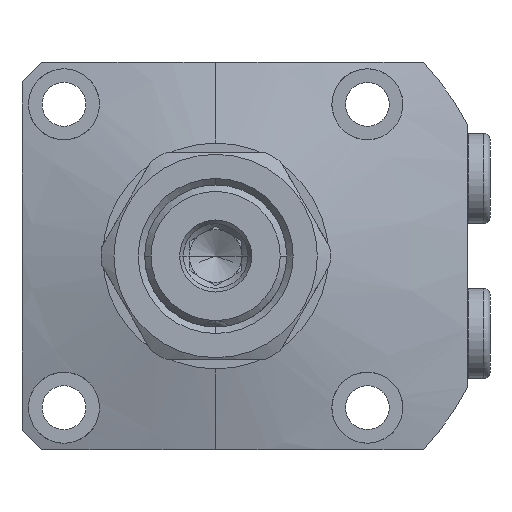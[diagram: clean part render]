
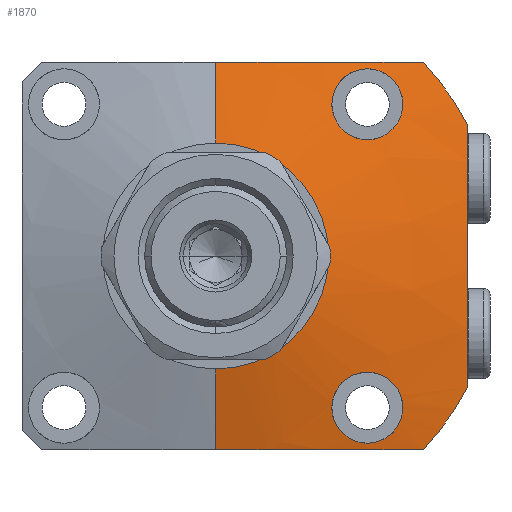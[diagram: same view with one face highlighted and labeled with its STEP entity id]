
A CAD part, left-side view. The second image highlights one B-rep face of the part: STEP entity #1870.
In plain terms, the highlighted conical face has half-angle 75 degrees and reference radius 17.5 mm.
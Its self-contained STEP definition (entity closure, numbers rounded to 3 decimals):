
#852=FACE_BOUND('',#2519,.T.);
#853=FACE_BOUND('',#2520,.T.);
#854=FACE_BOUND('',#2521,.T.);
#1024=CONICAL_SURFACE('',#6011,17.5,75.);
#1387=LINE('',#9183,#1626);
#1388=LINE('',#9212,#1627);
#1626=VECTOR('',#7105,1.);
#1627=VECTOR('',#7106,1.);
#1870=ADVANCED_FACE('',(#852,#853,#854),#1024,.T.);
#2519=EDGE_LOOP('',(#3761,#3762,#3763,#3764,#3765,#3766,#3767,#3768));
#2520=EDGE_LOOP('',(#3769,#3770));
#2521=EDGE_LOOP('',(#3771,#3772));
#2919=CIRCLE('',#5997,44.);
#2924=CIRCLE('',#6008,17.5);
#2925=CIRCLE('',#6010,44.);
#3761=ORIENTED_EDGE('',*,*,#5256,.T.);
#3762=ORIENTED_EDGE('',*,*,#5311,.F.);
#3763=ORIENTED_EDGE('',*,*,#5262,.F.);
#3764=ORIENTED_EDGE('',*,*,#5294,.T.);
#3765=ORIENTED_EDGE('',*,*,#5306,.T.);
#3766=ORIENTED_EDGE('',*,*,#5312,.T.);
#3767=ORIENTED_EDGE('',*,*,#5313,.T.);
#3768=ORIENTED_EDGE('',*,*,#5314,.T.);
#3769=ORIENTED_EDGE('',*,*,#5315,.F.);
#3770=ORIENTED_EDGE('',*,*,#5167,.F.);
#3771=ORIENTED_EDGE('',*,*,#5316,.F.);
#3772=ORIENTED_EDGE('',*,*,#5171,.F.);
#4653=VERTEX_POINT('',#8956);
#4654=VERTEX_POINT('',#8967);
#4657=VERTEX_POINT('',#8974);
#4658=VERTEX_POINT('',#8985);
#4721=VERTEX_POINT('',#9181);
#4722=VERTEX_POINT('',#9182);
#4723=VERTEX_POINT('',#9184);
#4728=VERTEX_POINT('',#9211);
#4757=VERTEX_POINT('',#9280);
#4759=VERTEX_POINT('',#9302);
#4760=VERTEX_POINT('',#9321);
#4761=VERTEX_POINT('',#9323);
#5167=EDGE_CURVE('',#4653,#4654,#5608,.T.);
#5171=EDGE_CURVE('',#4657,#4658,#5609,.T.);
#5256=EDGE_CURVE('',#4723,#4721,#1387,.T.);
#5262=EDGE_CURVE('',#4728,#4722,#1388,.T.);
#5294=EDGE_CURVE('',#4728,#4757,#5618,.T.);
#5306=EDGE_CURVE('',#4757,#4759,#2919,.T.);
#5311=EDGE_CURVE('',#4722,#4721,#2924,.T.);
#5312=EDGE_CURVE('',#4759,#4760,#5619,.T.);
#5313=EDGE_CURVE('',#4760,#4761,#2925,.T.);
#5314=EDGE_CURVE('',#4761,#4723,#5620,.T.);
#5315=EDGE_CURVE('',#4654,#4653,#5621,.T.);
#5316=EDGE_CURVE('',#4658,#4657,#5622,.T.);
#5608=B_SPLINE_CURVE_WITH_KNOTS('',3,(#8957,#8958,#8959,#8960,#8961,#8962,
#8963,#8964,#8965,#8966),.UNSPECIFIED.,.F.,.F.,(4,2,2,2,4),(0.,0.25,0.5,
0.75,1.),.UNSPECIFIED.);
#5609=B_SPLINE_CURVE_WITH_KNOTS('',3,(#8975,#8976,#8977,#8978,#8979,#8980,
#8981,#8982,#8983,#8984),.UNSPECIFIED.,.F.,.F.,(4,2,2,2,4),(0.,0.25,0.5,
0.75,1.),.UNSPECIFIED.);
#5618=B_SPLINE_CURVE_WITH_KNOTS('',3,(#9281,#9282,#9283,#9284),
 .UNSPECIFIED.,.F.,.F.,(4,4),(0.,1.),.UNSPECIFIED.);
#5619=B_SPLINE_CURVE_WITH_KNOTS('',3,(#9316,#9317,#9318,#9319,#9320),
 .UNSPECIFIED.,.F.,.F.,(4,1,4),(0.,0.5,1.),.UNSPECIFIED.);
#5620=B_SPLINE_CURVE_WITH_KNOTS('',3,(#9324,#9325,#9326,#9327),
 .UNSPECIFIED.,.F.,.F.,(4,4),(0.,1.),.UNSPECIFIED.);
#5621=B_SPLINE_CURVE_WITH_KNOTS('',3,(#9328,#9329,#9330,#9331,#9332,#9333,
#9334,#9335,#9336,#9337),.UNSPECIFIED.,.F.,.F.,(4,2,2,2,4),(0.,0.25,0.5,
0.75,1.),.UNSPECIFIED.);
#5622=B_SPLINE_CURVE_WITH_KNOTS('',3,(#9338,#9339,#9340,#9341,#9342,#9343,
#9344,#9345,#9346,#9347),.UNSPECIFIED.,.F.,.F.,(4,2,2,2,4),(0.,0.25,0.5,
0.75,1.),.UNSPECIFIED.);
#5997=AXIS2_PLACEMENT_3D('',#9303,#7199,#7200);
#6008=AXIS2_PLACEMENT_3D('',#9314,#7221,#7222);
#6010=AXIS2_PLACEMENT_3D('',#9322,#7225,#7226);
#6011=AXIS2_PLACEMENT_3D('',#9348,#7227,#7228);
#7105=DIRECTION('',(-0.259,0.,-0.966));
#7106=DIRECTION('',(-0.259,0.,0.966));
#7199=DIRECTION('',(-1.,0.,0.));
#7200=DIRECTION('',(0.,0.,1.));
#7221=DIRECTION('',(-1.,0.,0.));
#7222=DIRECTION('',(0.,0.,1.));
#7225=DIRECTION('',(-1.,0.,0.));
#7226=DIRECTION('',(0.,0.,1.));
#7227=DIRECTION('',(1.,0.,0.));
#7228=DIRECTION('',(0.,0.,1.));
#8956=CARTESIAN_POINT('',(-26.757,-23.5,18.));
#8957=CARTESIAN_POINT('',(-26.757,-23.5,18.));
#8958=CARTESIAN_POINT('',(-26.45,-24.946,18.));
#8959=CARTESIAN_POINT('',(-26.054,-26.334,18.579));
#8960=CARTESIAN_POINT('',(-25.305,-28.355,20.555));
#8961=CARTESIAN_POINT('',(-24.953,-28.972,21.961));
#8962=CARTESIAN_POINT('',(-24.458,-29.026,24.83));
#8963=CARTESIAN_POINT('',(-24.314,-28.455,26.301));
#8964=CARTESIAN_POINT('',(-24.307,-26.405,28.395));
#8965=CARTESIAN_POINT('',(-24.442,-24.958,29.));
#8966=CARTESIAN_POINT('',(-24.688,-23.5,29.));
#8967=CARTESIAN_POINT('',(-24.688,-23.5,29.));
#8974=CARTESIAN_POINT('',(-24.688,-23.5,-29.));
#8975=CARTESIAN_POINT('',(-24.688,-23.5,-29.));
#8976=CARTESIAN_POINT('',(-24.442,-24.957,-29.));
#8977=CARTESIAN_POINT('',(-24.307,-26.404,-28.393));
#8978=CARTESIAN_POINT('',(-24.314,-28.446,-26.313));
#8979=CARTESIAN_POINT('',(-24.456,-29.025,-24.846));
#8980=CARTESIAN_POINT('',(-24.952,-28.973,-21.959));
#8981=CARTESIAN_POINT('',(-25.304,-28.36,-20.559));
#8982=CARTESIAN_POINT('',(-26.055,-26.331,-18.576));
#8983=CARTESIAN_POINT('',(-26.45,-24.945,-18.));
#8984=CARTESIAN_POINT('',(-26.757,-23.5,-18.));
#8985=CARTESIAN_POINT('',(-26.757,-23.5,-18.));
#9181=CARTESIAN_POINT('',(-30.,0.,17.5));
#9182=CARTESIAN_POINT('',(-30.,0.,-17.5));
#9183=CARTESIAN_POINT('',(-30.,0.,17.5));
#9184=CARTESIAN_POINT('',(-26.651,0.,30.));
#9211=CARTESIAN_POINT('',(-26.651,0.,-30.));
#9212=CARTESIAN_POINT('',(-30.,0.,-17.5));
#9280=CARTESIAN_POINT('',(-22.899,-32.187,-30.));
#9281=CARTESIAN_POINT('',(-26.651,0.,-30.));
#9282=CARTESIAN_POINT('',(-26.651,-10.875,-30.));
#9283=CARTESIAN_POINT('',(-24.983,-21.555,-30.));
#9284=CARTESIAN_POINT('',(-22.899,-32.187,-30.));
#9302=CARTESIAN_POINT('',(-22.899,-39.,-20.372));
#9303=CARTESIAN_POINT('',(-22.899,0.,0.));
#9314=CARTESIAN_POINT('',(-30.,0.,0.));
#9316=CARTESIAN_POINT('',(-22.899,-39.,-20.372));
#9317=CARTESIAN_POINT('',(-23.742,-39.,-13.581));
#9318=CARTESIAN_POINT('',(-24.736,-39.,0.));
#9319=CARTESIAN_POINT('',(-23.742,-39.,13.581));
#9320=CARTESIAN_POINT('',(-22.899,-39.,20.372));
#9321=CARTESIAN_POINT('',(-22.899,-39.,20.372));
#9322=CARTESIAN_POINT('',(-22.899,0.,0.));
#9323=CARTESIAN_POINT('',(-22.899,-32.187,30.));
#9324=CARTESIAN_POINT('',(-22.899,-32.187,30.));
#9325=CARTESIAN_POINT('',(-24.983,-21.555,30.));
#9326=CARTESIAN_POINT('',(-26.651,-10.875,30.));
#9327=CARTESIAN_POINT('',(-26.651,0.,30.));
#9328=CARTESIAN_POINT('',(-24.688,-23.5,29.));
#9329=CARTESIAN_POINT('',(-24.934,-22.04,29.));
#9330=CARTESIAN_POINT('',(-25.282,-20.637,28.404));
#9331=CARTESIAN_POINT('',(-26.029,-18.626,26.414));
#9332=CARTESIAN_POINT('',(-26.431,-18.024,25.014));
#9333=CARTESIAN_POINT('',(-27.046,-17.978,22.164));
#9334=CARTESIAN_POINT('',(-27.253,-18.546,20.696));
#9335=CARTESIAN_POINT('',(-27.262,-20.603,18.599));
#9336=CARTESIAN_POINT('',(-27.065,-22.052,18.));
#9337=CARTESIAN_POINT('',(-26.757,-23.5,18.));
#9338=CARTESIAN_POINT('',(-26.757,-23.5,-18.));
#9339=CARTESIAN_POINT('',(-27.065,-22.052,-18.));
#9340=CARTESIAN_POINT('',(-27.261,-20.605,-18.601));
#9341=CARTESIAN_POINT('',(-27.254,-18.556,-20.682));
#9342=CARTESIAN_POINT('',(-27.049,-17.979,-22.146));
#9343=CARTESIAN_POINT('',(-26.43,-18.022,-25.02));
#9344=CARTESIAN_POINT('',(-26.03,-18.622,-26.411));
#9345=CARTESIAN_POINT('',(-25.28,-20.641,-28.408));
#9346=CARTESIAN_POINT('',(-24.934,-22.04,-29.));
#9347=CARTESIAN_POINT('',(-24.688,-23.5,-29.));
#9348=CARTESIAN_POINT('',(-30.,0.,0.));
